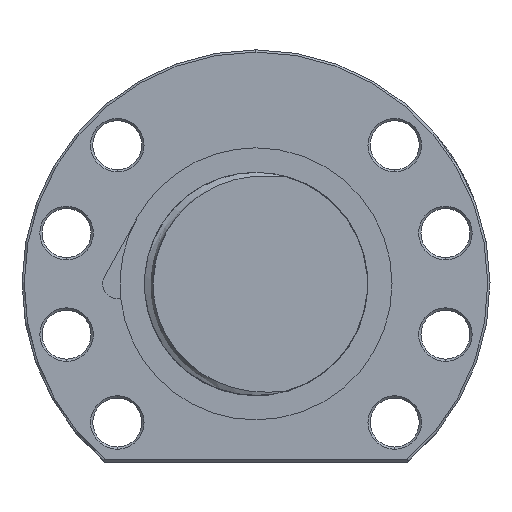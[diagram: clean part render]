
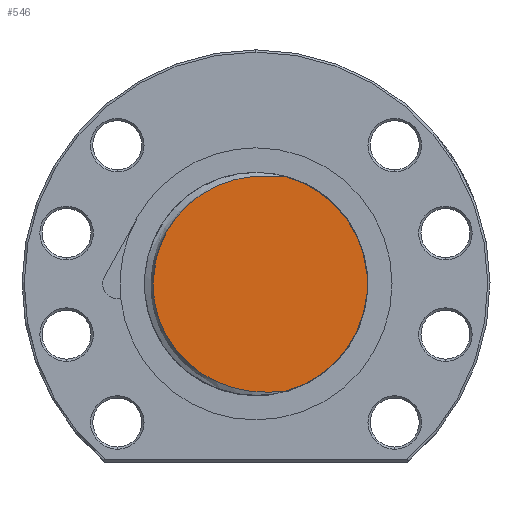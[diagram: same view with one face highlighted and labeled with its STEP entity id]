
A CAD part, left-side view. The second image highlights one B-rep face of the part: STEP entity #546.
In plain terms, the highlighted planar face has unit normal (-1, 0, 0).
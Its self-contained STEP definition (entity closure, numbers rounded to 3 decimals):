
#491 = EDGE_CURVE ( 'NONE', #762, #758, #5513, .T. ) ;
#546 = ADVANCED_FACE ( 'NONE', ( #13273 ), #13268, .F. ) ;
#547 = EDGE_LOOP ( 'NONE', ( #548, #549 ) ) ;
#548 = ORIENTED_EDGE ( 'NONE', *, *, #764, .F. ) ;
#549 = ORIENTED_EDGE ( 'NONE', *, *, #491, .T. ) ;
#758 = VERTEX_POINT ( 'NONE', #16108 ) ;
#762 = VERTEX_POINT ( 'NONE', #16102 ) ;
#764 = EDGE_CURVE ( 'NONE', #762, #758, #16052, .T. ) ;
#5425 = CARTESIAN_POINT ( 'NONE',  ( -168., -6.424, -24.161 ) ) ;
#5426 = CARTESIAN_POINT ( 'NONE',  ( -168., -5.971, -24.173 ) ) ;
#5427 = CARTESIAN_POINT ( 'NONE',  ( -168., -5.519, -24.201 ) ) ;
#5428 = CARTESIAN_POINT ( 'NONE',  ( -168., -4.614, -24.249 ) ) ;
#5429 = CARTESIAN_POINT ( 'NONE',  ( -168., -4.161, -24.27 ) ) ;
#5430 = CARTESIAN_POINT ( 'NONE',  ( -168., -2.803, -24.311 ) ) ;
#5431 = CARTESIAN_POINT ( 'NONE',  ( -168., -1.897, -24.31 ) ) ;
#5432 = CARTESIAN_POINT ( 'NONE',  ( -168., -0.085, -24.224 ) ) ;
#5433 = CARTESIAN_POINT ( 'NONE',  ( -168., 0.818, -24.14 ) ) ;
#5434 = CARTESIAN_POINT ( 'NONE',  ( -168., 2.6, -23.887 ) ) ;
#5435 = CARTESIAN_POINT ( 'NONE',  ( -168., 3.48, -23.716 ) ) ;
#5436 = CARTESIAN_POINT ( 'NONE',  ( -168., 5.221, -23.287 ) ) ;
#5437 = CARTESIAN_POINT ( 'NONE',  ( -168., 6.082, -23.027 ) ) ;
#5438 = CARTESIAN_POINT ( 'NONE',  ( -168., 7.781, -22.415 ) ) ;
#5439 = CARTESIAN_POINT ( 'NONE',  ( -168., 8.622, -22.061 ) ) ;
#5440 = CARTESIAN_POINT ( 'NONE',  ( -168., 10.248, -21.27 ) ) ;
#5441 = CARTESIAN_POINT ( 'NONE',  ( -168., 11.036, -20.831 ) ) ;
#5442 = CARTESIAN_POINT ( 'NONE',  ( -168., 12.182, -20.11 ) ) ;
#5443 = CARTESIAN_POINT ( 'NONE',  ( -168., 12.558, -19.858 ) ) ;
#5444 = CARTESIAN_POINT ( 'NONE',  ( -168., 13.297, -19.334 ) ) ;
#5445 = CARTESIAN_POINT ( 'NONE',  ( -168., 13.661, -19.061 ) ) ;
#5446 = CARTESIAN_POINT ( 'NONE',  ( -168., 15.435, -17.65 ) ) ;
#5447 = CARTESIAN_POINT ( 'NONE',  ( -168., 16.707, -16.384 ) ) ;
#5448 = CARTESIAN_POINT ( 'NONE',  ( -168., 18.115, -14.629 ) ) ;
#5449 = CARTESIAN_POINT ( 'NONE',  ( -168., 18.388, -14.27 ) ) ;
#5461 = CARTESIAN_POINT ( 'NONE',  ( -168., 18.914, -13.534 ) ) ;
#5462 = CARTESIAN_POINT ( 'NONE',  ( -168., 19.168, -13.156 ) ) ;
#5463 = CARTESIAN_POINT ( 'NONE',  ( -168., 19.896, -12.007 ) ) ;
#5464 = CARTESIAN_POINT ( 'NONE',  ( -168., 20.333, -11.22 ) ) ;
#5465 = CARTESIAN_POINT ( 'NONE',  ( -168., 21.117, -9.605 ) ) ;
#5466 = CARTESIAN_POINT ( 'NONE',  ( -168., 21.462, -8.777 ) ) ;
#5467 = CARTESIAN_POINT ( 'NONE',  ( -168., 21.91, -7.504 ) ) ;
#5468 = CARTESIAN_POINT ( 'NONE',  ( -168., 22.048, -7.074 ) ) ;
#5469 = CARTESIAN_POINT ( 'NONE',  ( -168., 22.3, -6.205 ) ) ;
#5470 = CARTESIAN_POINT ( 'NONE',  ( -168., 22.415, -5.764 ) ) ;
#5471 = CARTESIAN_POINT ( 'NONE',  ( -168., 22.921, -3.556 ) ) ;
#5472 = CARTESIAN_POINT ( 'NONE',  ( -168., 23.121, -1.773 ) ) ;
#5473 = CARTESIAN_POINT ( 'NONE',  ( -168., 23.118, 0.477 ) ) ;
#5474 = CARTESIAN_POINT ( 'NONE',  ( -168., 23.104, 0.928 ) ) ;
#5475 = CARTESIAN_POINT ( 'NONE',  ( -168., 23.052, 1.832 ) ) ;
#5476 = CARTESIAN_POINT ( 'NONE',  ( -168., 23.013, 2.286 ) ) ;
#5477 = CARTESIAN_POINT ( 'NONE',  ( -168., 22.857, 3.636 ) ) ;
#5478 = CARTESIAN_POINT ( 'NONE',  ( -168., 22.703, 4.522 ) ) ;
#5479 = CARTESIAN_POINT ( 'NONE',  ( -168., 22.297, 6.27 ) ) ;
#5480 = CARTESIAN_POINT ( 'NONE',  ( -168., 22.045, 7.13 ) ) ;
#5481 = CARTESIAN_POINT ( 'NONE',  ( -168., 21.593, 8.402 ) ) ;
#5482 = CARTESIAN_POINT ( 'NONE',  ( -168., 21.43, 8.823 ) ) ;
#5483 = CARTESIAN_POINT ( 'NONE',  ( -168., 21.079, 9.657 ) ) ;
#5484 = CARTESIAN_POINT ( 'NONE',  ( -168., 20.891, 10.073 ) ) ;
#5485 = CARTESIAN_POINT ( 'NONE',  ( -168., 19.897, 12.107 ) ) ;
#5486 = CARTESIAN_POINT ( 'NONE',  ( -168., 18.932, 13.618 ) ) ;
#5487 = CARTESIAN_POINT ( 'NONE',  ( -168., 17.521, 15.367 ) ) ;
#5488 = CARTESIAN_POINT ( 'NONE',  ( -168., 17.229, 15.71 ) ) ;
#5489 = CARTESIAN_POINT ( 'NONE',  ( -168., 16.623, 16.381 ) ) ;
#5490 = CARTESIAN_POINT ( 'NONE',  ( -168., 16.308, 16.71 ) ) ;
#5491 = CARTESIAN_POINT ( 'NONE',  ( -168., 15.342, 17.667 ) ) ;
#5492 = CARTESIAN_POINT ( 'NONE',  ( -168., 14.668, 18.263 ) ) ;
#5493 = CARTESIAN_POINT ( 'NONE',  ( -168., 12.561, 19.931 ) ) ;
#5494 = CARTESIAN_POINT ( 'NONE',  ( -168., 11.044, 20.883 ) ) ;
#5495 = CARTESIAN_POINT ( 'NONE',  ( -168., 9.006, 21.874 ) ) ;
#5496 = CARTESIAN_POINT ( 'NONE',  ( -168., 8.591, 22.061 ) ) ;
#5497 = CARTESIAN_POINT ( 'NONE',  ( -168., 7.758, 22.412 ) ) ;
#5499 = CARTESIAN_POINT ( 'NONE',  ( -168., 7.339, 22.576 ) ) ;
#5500 = CARTESIAN_POINT ( 'NONE',  ( -168., 6.071, 23.032 ) ) ;
#5501 = CARTESIAN_POINT ( 'NONE',  ( -168., 5.213, 23.289 ) ) ;
#5502 = CARTESIAN_POINT ( 'NONE',  ( -168., 3.475, 23.717 ) ) ;
#5503 = CARTESIAN_POINT ( 'NONE',  ( -168., 2.594, 23.887 ) ) ;
#5504 = CARTESIAN_POINT ( 'NONE',  ( -168., 0.81, 24.141 ) ) ;
#5505 = CARTESIAN_POINT ( 'NONE',  ( -168., -0.097, 24.225 ) ) ;
#5506 = CARTESIAN_POINT ( 'NONE',  ( -168., -1.905, 24.311 ) ) ;
#5507 = CARTESIAN_POINT ( 'NONE',  ( -168., -2.81, 24.312 ) ) ;
#5508 = CARTESIAN_POINT ( 'NONE',  ( -168., -4.166, 24.27 ) ) ;
#5509 = CARTESIAN_POINT ( 'NONE',  ( -168., -4.618, 24.248 ) ) ;
#5510 = CARTESIAN_POINT ( 'NONE',  ( -168., -5.523, 24.2 ) ) ;
#5511 = CARTESIAN_POINT ( 'NONE',  ( -168., -5.975, 24.172 ) ) ;
#5512 = CARTESIAN_POINT ( 'NONE',  ( -168., -6.427, 24.16 ) ) ;
#5513 = B_SPLINE_CURVE_WITH_KNOTS ( 'NONE', 3,
 ( #5512, #5511, #5510, #5509, #5508, #5507, #5506, #5505, #5504, #5503, #5502, #5501, #5500, #5499, #5497, #5496, #5495, #5494, #5493, #5492, #5491, #5490, #5489, #5488, #5487, #5486, #5485, #5484, #5483, #5482, #5481, #5480, #5479, #5478, #5477, #5476, #5475, #5474, #5473, #5472, #5471, #5470, #5469, #5468, #5467, #5466, #5465, #5464, #5463, #5462, #5461, #5449, #5448, #5447, #5446, #5445, #5444, #5443, #5442, #5441, #5440, #5439, #5438, #5437, #5436, #5435, #5434, #5433, #5432, #5431, #5430, #5429, #5428, #5427, #5426, #5425 ),
 .UNSPECIFIED., .F., .F.,
 ( 4, 2, 2, 2, 2, 2, 2, 2, 2, 2, 2, 2, 2, 2, 2, 2, 2, 2, 2, 2, 2, 2, 2, 2, 2, 2, 2, 2, 2, 2, 2, 2, 2, 2, 2, 2, 2, 4 ),
 ( 0.003, 0.004, 0.006, 0.008, 0.011, 0.014, 0.016, 0.018, 0.019, 0.025, 0.027, 0.029, 0.03, 0.036, 0.037, 0.038, 0.041, 0.044, 0.045, 0.047, 0.052, 0.053, 0.055, 0.057, 0.06, 0.062, 0.063, 0.068, 0.07, 0.071, 0.074, 0.077, 0.079, 0.082, 0.085, 0.088, 0.089, 0.09 ),
 .UNSPECIFIED. ) ;
#13264 = DIRECTION ( 'NONE',  ( 0., 0., -1. ) ) ;
#13265 = DIRECTION ( 'NONE',  ( 1., 0., 0. ) ) ;
#13266 = CARTESIAN_POINT ( 'NONE',  ( -168., 0., 0. ) ) ;
#13267 = AXIS2_PLACEMENT_3D ( 'NONE', #13266, #13265, #13264 ) ;
#13268 = PLANE ( 'NONE',  #13267 ) ;
#13273 = FACE_OUTER_BOUND ( 'NONE', #547, .T. ) ;
#16048 = DIRECTION ( 'NONE',  ( 0., 1., 0. ) ) ;
#16049 = DIRECTION ( 'NONE',  ( 1., 0., 0. ) ) ;
#16050 = CARTESIAN_POINT ( 'NONE',  ( -168., 0., 0. ) ) ;
#16051 = AXIS2_PLACEMENT_3D ( 'NONE', #16050, #16049, #16048 ) ;
#16052 = CIRCLE ( 'NONE', #16051, 25. ) ;
#16102 = CARTESIAN_POINT ( 'NONE',  ( -168., -6.427, 24.16 ) ) ;
#16108 = CARTESIAN_POINT ( 'NONE',  ( -168., -6.424, -24.161 ) ) ;
